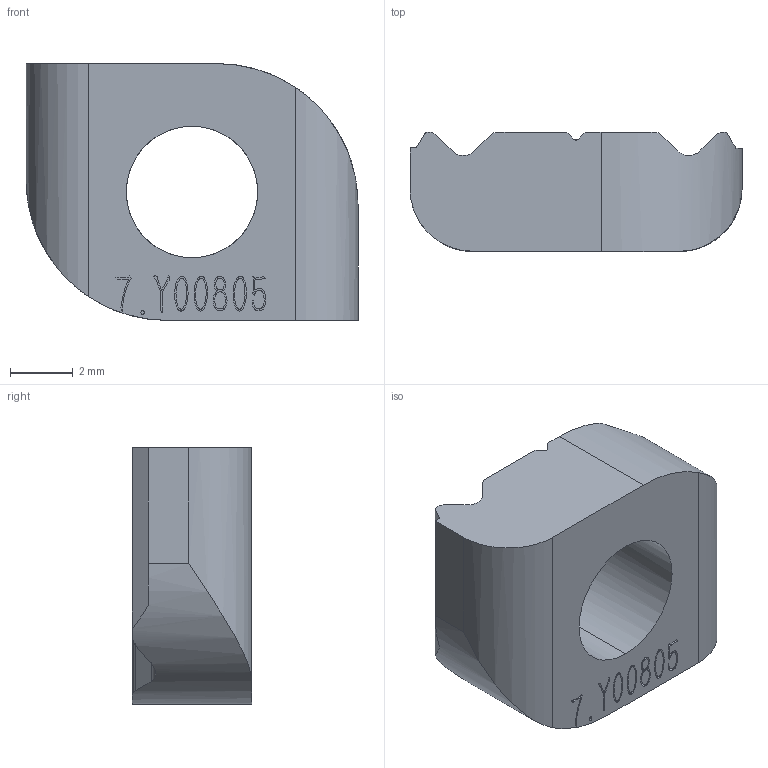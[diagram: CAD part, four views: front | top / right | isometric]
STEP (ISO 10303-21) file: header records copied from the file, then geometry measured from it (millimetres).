
FILE_DESCRIPTION (( 'STEP AP214' ), '1' );
FILE_NAME ('PTN-M5R.STEP', '2019-10-30T02:48:26', ( '微软用户' ), ( '微软中国' ), 'SwSTEP 2.0', 'SolidWorks 2016', '' );
FILE_SCHEMA (( 'AUTOMOTIVE_DESIGN' ));
Length unit declared in the file: millimetre
Products named in the file (1): PTN-M5R
Bounding box: 10.6 x 3.8 x 8.2 mm (x, y, z)
Volume: 220.6 mm3; surface area: 312.3 mm2
Topology: 1 solids, 1 shells, 177 faces, 489 edges, 326 vertices
Faces by surface type: plane 86, bspline 77, cylinder 14
Entity records: 9427 total; most frequent: CARTESIAN_POINT 5408, ORIENTED_EDGE 978, DIRECTION 537, EDGE_CURVE 489, VERTEX_POINT 326, VECTOR 291, LINE 291, EDGE_LOOP 191
